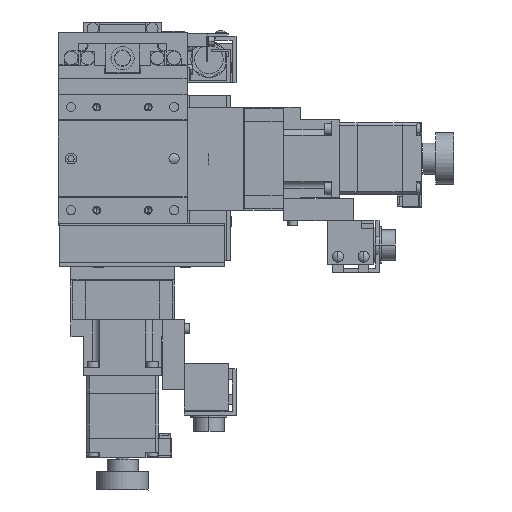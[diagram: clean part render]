
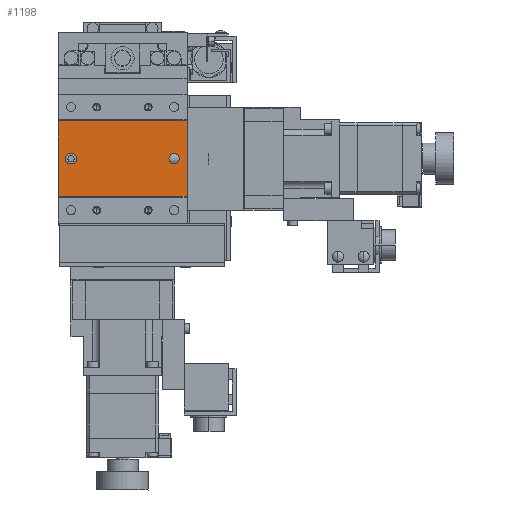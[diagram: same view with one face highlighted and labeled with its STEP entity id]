
A CAD part, front view. The second image highlights one B-rep face of the part: STEP entity #1198.
In plain terms, the highlighted planar face has unit normal (0, -1, 0).
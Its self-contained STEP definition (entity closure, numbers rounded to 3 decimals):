
#1198=ADVANCED_FACE('',(#3895,#3896,#3897),#3898,.F.);
#3895=FACE_BOUND('',#9050,.T.);
#3896=FACE_OUTER_BOUND('',#9051,.T.);
#3897=FACE_BOUND('',#9052,.T.);
#3898=PLANE('',#9053);
#9050=EDGE_LOOP('',(#15736,#15737,#15738,#15739));
#9051=EDGE_LOOP('',(#15740,#15741,#15742,#15743));
#9052=EDGE_LOOP('',(#15744,#15745,#15746));
#9053=AXIS2_PLACEMENT_3D('',#15747,#15748,#15749);
#15736=ORIENTED_EDGE('',*,*,#33830,.F.);
#15737=ORIENTED_EDGE('',*,*,#33831,.F.);
#15738=ORIENTED_EDGE('',*,*,#33832,.F.);
#15739=ORIENTED_EDGE('',*,*,#33833,.F.);
#15740=ORIENTED_EDGE('',*,*,#33815,.T.);
#15741=ORIENTED_EDGE('',*,*,#33834,.F.);
#15742=ORIENTED_EDGE('',*,*,#33835,.F.);
#15743=ORIENTED_EDGE('',*,*,#33836,.T.);
#15744=ORIENTED_EDGE('',*,*,#33720,.F.);
#15745=ORIENTED_EDGE('',*,*,#33719,.F.);
#15746=ORIENTED_EDGE('',*,*,#33837,.F.);
#15747=CARTESIAN_POINT('',(25.0,0.35,14.65));
#15748=DIRECTION('',(-0.0,1.0,0.0));
#15749=DIRECTION('',(1.0,0.0,0.0));
#33719=EDGE_CURVE('',#40245,#40247,#40248,.F.);
#33720=EDGE_CURVE('',#40247,#40241,#40249,.F.);
#33815=EDGE_CURVE('',#40426,#40424,#40427,.T.);
#33830=EDGE_CURVE('',#40454,#40455,#40456,.F.);
#33831=EDGE_CURVE('',#40457,#40454,#40458,.T.);
#33832=EDGE_CURVE('',#40459,#40457,#40460,.F.);
#33833=EDGE_CURVE('',#40455,#40459,#40461,.T.);
#33834=EDGE_CURVE('',#40462,#40424,#40463,.T.);
#33835=EDGE_CURVE('',#40464,#40462,#40465,.T.);
#33836=EDGE_CURVE('',#40464,#40426,#40466,.T.);
#33837=EDGE_CURVE('',#40241,#40245,#40467,.F.);
#40241=VERTEX_POINT('',#50751);
#40245=VERTEX_POINT('',#50756);
#40247=VERTEX_POINT('',#50759);
#40248=CIRCLE('',#50760,2.0);
#40249=CIRCLE('',#50761,2.0);
#40424=VERTEX_POINT('',#50990);
#40426=VERTEX_POINT('',#50993);
#40427=LINE('',#50994,#50995);
#40454=VERTEX_POINT('',#51035);
#40455=VERTEX_POINT('',#51036);
#40456=CIRCLE('',#51037,2.0);
#40457=VERTEX_POINT('',#51038);
#40458=LINE('',#51039,#51040);
#40459=VERTEX_POINT('',#51041);
#40460=CIRCLE('',#51042,2.0);
#40461=LINE('',#51043,#51044);
#40462=VERTEX_POINT('',#51045);
#40463=LINE('',#51046,#51047);
#40464=VERTEX_POINT('',#51048);
#40465=LINE('',#51049,#51050);
#40466=LINE('',#51051,#51052);
#40467=CIRCLE('',#51053,2.0);
#50751=CARTESIAN_POINT('',(18.0,0.35,0.));
#50756=CARTESIAN_POINT('',(22.0,0.35,0.));
#50759=CARTESIAN_POINT('',(20.0,0.35,2.0));
#50760=AXIS2_PLACEMENT_3D('',#65067,#65068,#65069);
#50761=AXIS2_PLACEMENT_3D('',#65070,#65071,#65072);
#50990=CARTESIAN_POINT('',(-25.0,0.35,-14.65));
#50993=CARTESIAN_POINT('',(-25.0,0.35,14.65));
#50994=CARTESIAN_POINT('',(-25.0,0.35,14.65));
#50995=VECTOR('',#65245,1000.0);
#51035=CARTESIAN_POINT('',(-20.25,0.35,2.0));
#51036=CARTESIAN_POINT('',(-20.25,0.35,-2.0));
#51037=AXIS2_PLACEMENT_3D('',#65262,#65263,#65264);
#51038=CARTESIAN_POINT('',(-19.75,0.35,2.0));
#51039=CARTESIAN_POINT('',(25.0,0.35,2.0));
#51040=VECTOR('',#65265,1000.0);
#51041=CARTESIAN_POINT('',(-19.75,0.35,-2.0));
#51042=AXIS2_PLACEMENT_3D('',#65266,#65267,#65268);
#51043=CARTESIAN_POINT('',(25.0,0.35,-2.0));
#51044=VECTOR('',#65269,1000.0);
#51045=CARTESIAN_POINT('',(25.0,0.35,-14.65));
#51046=CARTESIAN_POINT('',(25.0,0.35,-14.65));
#51047=VECTOR('',#65270,1000.0);
#51048=CARTESIAN_POINT('',(25.0,0.35,14.65));
#51049=CARTESIAN_POINT('',(25.0,0.35,14.65));
#51050=VECTOR('',#65271,1000.0);
#51051=CARTESIAN_POINT('',(25.0,0.35,14.65));
#51052=VECTOR('',#65272,1000.0);
#51053=AXIS2_PLACEMENT_3D('',#65273,#65274,#65275);
#65067=CARTESIAN_POINT('',(20.0,0.35,0.0));
#65068=DIRECTION('',(0.0,1.0,0.0));
#65069=DIRECTION('',(0.0,0.0,1.0));
#65070=CARTESIAN_POINT('',(20.0,0.35,0.0));
#65071=DIRECTION('',(0.0,1.0,0.0));
#65072=DIRECTION('',(0.0,0.0,1.0));
#65245=DIRECTION('',(0.0,0.0,-1.0));
#65262=CARTESIAN_POINT('',(-20.25,0.35,0.0));
#65263=DIRECTION('',(0.0,1.0,0.0));
#65264=DIRECTION('',(0.0,0.0,1.0));
#65265=DIRECTION('',(-1.0,0.0,0.0));
#65266=CARTESIAN_POINT('',(-19.75,0.35,0.0));
#65267=DIRECTION('',(0.0,1.0,0.0));
#65268=DIRECTION('',(0.0,0.0,1.0));
#65269=DIRECTION('',(1.0,0.0,0.0));
#65270=DIRECTION('',(-1.0,0.0,0.0));
#65271=DIRECTION('',(0.0,0.0,-1.0));
#65272=DIRECTION('',(-1.0,0.0,0.0));
#65273=CARTESIAN_POINT('',(20.0,0.35,0.0));
#65274=DIRECTION('',(0.0,1.0,0.0));
#65275=DIRECTION('',(0.0,0.0,1.0));
